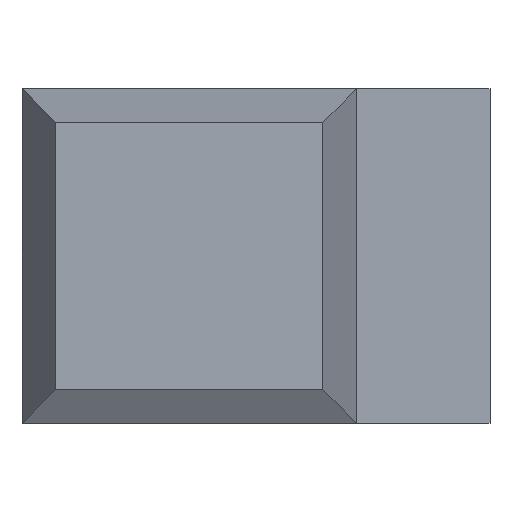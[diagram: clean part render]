
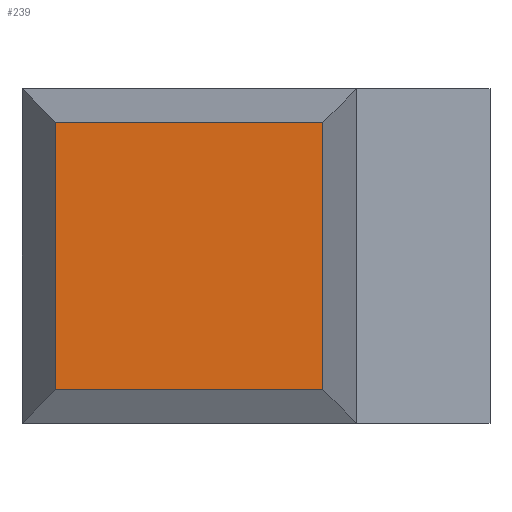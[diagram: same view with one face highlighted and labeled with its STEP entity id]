
A CAD part, left-side view. The second image highlights one B-rep face of the part: STEP entity #239.
In plain terms, the highlighted planar face has unit normal (-1, 0, 0).
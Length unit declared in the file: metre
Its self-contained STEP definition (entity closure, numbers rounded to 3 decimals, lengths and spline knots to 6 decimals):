
#40=ORIENTED_EDGE('',*,*,#98,.T.);
#41=ORIENTED_EDGE('',*,*,#99,.T.);
#42=ORIENTED_EDGE('',*,*,#100,.T.);
#43=ORIENTED_EDGE('',*,*,#101,.T.);
#98=EDGE_CURVE('',#124,#125,#150,.T.);
#99=EDGE_CURVE('',#125,#126,#151,.T.);
#100=EDGE_CURVE('',#126,#127,#152,.T.);
#101=EDGE_CURVE('',#127,#124,#153,.T.);
#124=VERTEX_POINT('',#383);
#125=VERTEX_POINT('',#384);
#126=VERTEX_POINT('',#386);
#127=VERTEX_POINT('',#388);
#150=LINE('',#382,#182);
#151=LINE('',#385,#183);
#152=LINE('',#387,#184);
#153=LINE('',#389,#185);
#182=VECTOR('',#311,1.);
#183=VECTOR('',#312,1.);
#184=VECTOR('',#313,1.);
#185=VECTOR('',#314,1.);
#197=EDGE_LOOP('',(#40,#41,#42,#43));
#211=FACE_BOUND('',#197,.T.);
#225=PLANE('',#266);
#239=ADVANCED_FACE('',(#211),#225,.T.);
#266=AXIS2_PLACEMENT_3D('',#381,#309,#310);
#309=DIRECTION('',(-1.,0.,0.));
#310=DIRECTION('',(0.,-1.,0.));
#311=DIRECTION('',(0.,1.,0.));
#312=DIRECTION('',(0.,0.,-1.));
#313=DIRECTION('',(0.,-1.,0.));
#314=DIRECTION('',(0.,0.,1.));
#381=CARTESIAN_POINT('',(-0.023226,0.040857,0.0179));
#382=CARTESIAN_POINT('',(-0.023226,0.048238,0.0215));
#383=CARTESIAN_POINT('',(-0.023226,0.043738,0.0215));
#384=CARTESIAN_POINT('',(-0.023226,0.047738,0.0215));
#385=CARTESIAN_POINT('',(-0.023226,0.047738,0.0179));
#386=CARTESIAN_POINT('',(-0.023226,0.047738,0.0175));
#387=CARTESIAN_POINT('',(-0.023226,0.040857,0.0175));
#388=CARTESIAN_POINT('',(-0.023226,0.043738,0.0175));
#389=CARTESIAN_POINT('',(-0.023226,0.043738,0.022));
